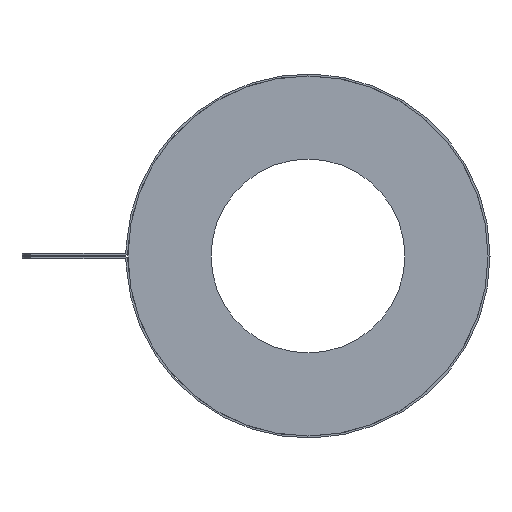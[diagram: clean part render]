
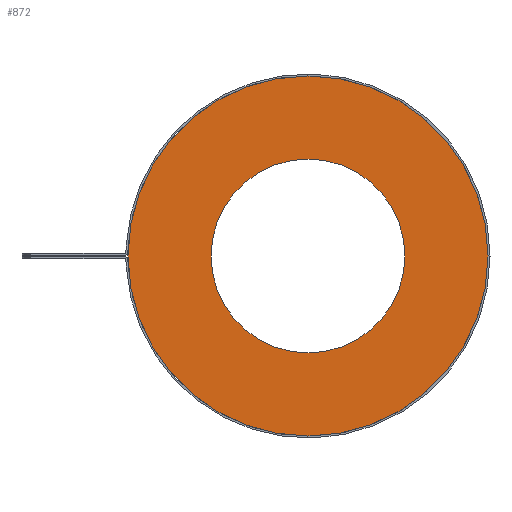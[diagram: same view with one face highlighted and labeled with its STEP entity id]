
A CAD part, left-side view. The second image highlights one B-rep face of the part: STEP entity #872.
In plain terms, the highlighted planar face has unit normal (-1, 0, 0).
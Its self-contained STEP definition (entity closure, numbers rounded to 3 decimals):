
#106 = AXIS2_PLACEMENT_3D ( 'NONE', #1424, #1433, #1434 ) ;
#108 = EDGE_CURVE ( 'NONE', #610, #609, #897, .T. ) ;
#109 = EDGE_CURVE ( 'NONE', #613, #616, #899, .T. ) ;
#145 = EDGE_CURVE ( 'NONE', #616, #613, #928, .T. ) ;
#148 = EDGE_CURVE ( 'NONE', #609, #610, #929, .T. ) ;
#175 = AXIS2_PLACEMENT_3D ( 'NONE', #1328, #1329, #1330 ) ;
#176 = AXIS2_PLACEMENT_3D ( 'NONE', #275, #276, #277 ) ;
#191 = AXIS2_PLACEMENT_3D ( 'NONE', #1076, #1077, #1078 ) ;
#192 = AXIS2_PLACEMENT_3D ( 'NONE', #248, #249, #250 ) ;
#248 = CARTESIAN_POINT ( 'NONE',  ( -254., 0., 0. ) ) ;
#249 = DIRECTION ( 'NONE',  ( 1., 0., 0. ) ) ;
#250 = DIRECTION ( 'NONE',  ( 0., 0., -1. ) ) ;
#275 = CARTESIAN_POINT ( 'NONE',  ( -254., 0., 0. ) ) ;
#276 = DIRECTION ( 'NONE',  ( 1., 0., 0. ) ) ;
#277 = DIRECTION ( 'NONE',  ( 0., 0., -1. ) ) ;
#493 = CARTESIAN_POINT ( 'NONE',  ( -254., 0., -41.275 ) ) ;
#494 = CARTESIAN_POINT ( 'NONE',  ( -254., 0., 41.275 ) ) ;
#497 = CARTESIAN_POINT ( 'NONE',  ( -254., 0., -22.225 ) ) ;
#500 = CARTESIAN_POINT ( 'NONE',  ( -254., 0., 22.225 ) ) ;
#609 = VERTEX_POINT ( 'NONE', #493 ) ;
#610 = VERTEX_POINT ( 'NONE', #494 ) ;
#613 = VERTEX_POINT ( 'NONE', #497 ) ;
#616 = VERTEX_POINT ( 'NONE', #500 ) ;
#872 = ADVANCED_FACE ( 'NONE', ( #1028, #1031 ), #1428, .F. ) ;
#897 = CIRCLE ( 'NONE', #192, 41.275 ) ;
#899 = CIRCLE ( 'NONE', #191, 22.225 ) ;
#928 = CIRCLE ( 'NONE', #176, 22.225 ) ;
#929 = CIRCLE ( 'NONE', #175, 41.275 ) ;
#1028 = FACE_OUTER_BOUND ( 'NONE', #1278, .T. ) ;
#1031 = FACE_BOUND ( 'NONE', #1266, .T. ) ;
#1076 = CARTESIAN_POINT ( 'NONE',  ( -254., 0., 0. ) ) ;
#1077 = DIRECTION ( 'NONE',  ( 1., 0., 0. ) ) ;
#1078 = DIRECTION ( 'NONE',  ( 0., 0., -1. ) ) ;
#1227 = ORIENTED_EDGE ( 'NONE', *, *, #108, .F. ) ;
#1228 = ORIENTED_EDGE ( 'NONE', *, *, #148, .F. ) ;
#1229 = ORIENTED_EDGE ( 'NONE', *, *, #145, .T. ) ;
#1230 = ORIENTED_EDGE ( 'NONE', *, *, #109, .T. ) ;
#1266 = EDGE_LOOP ( 'NONE', ( #1229, #1230 ) ) ;
#1278 = EDGE_LOOP ( 'NONE', ( #1227, #1228 ) ) ;
#1328 = CARTESIAN_POINT ( 'NONE',  ( -254., 0., 0. ) ) ;
#1329 = DIRECTION ( 'NONE',  ( 1., 0., 0. ) ) ;
#1330 = DIRECTION ( 'NONE',  ( 0., 0., -1. ) ) ;
#1424 = CARTESIAN_POINT ( 'NONE',  ( -254., 0., 0. ) ) ;
#1428 = PLANE ( 'NONE',  #106 ) ;
#1433 = DIRECTION ( 'NONE',  ( 1., 0., 0. ) ) ;
#1434 = DIRECTION ( 'NONE',  ( 0., 0., -1. ) ) ;
